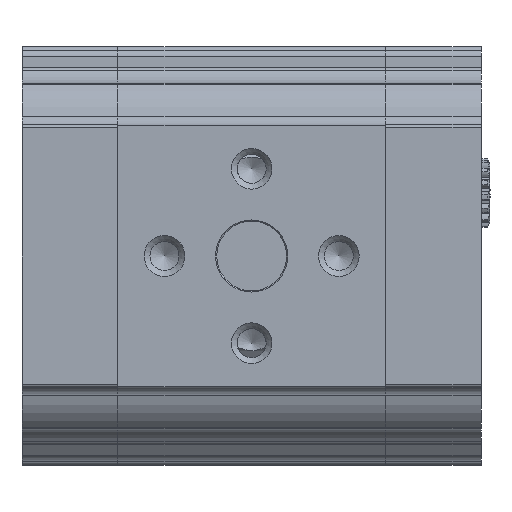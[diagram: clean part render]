
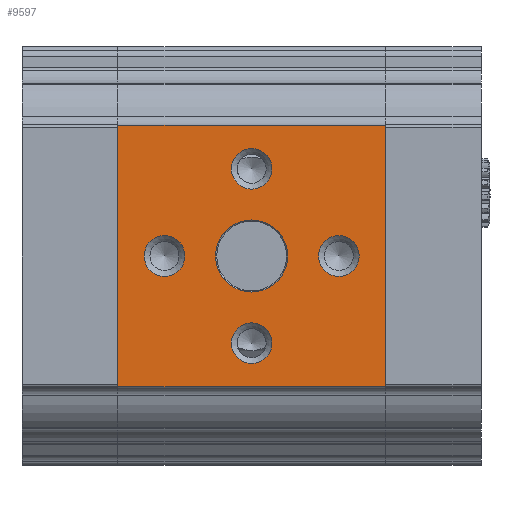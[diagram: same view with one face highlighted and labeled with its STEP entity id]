
A CAD part, left-side view. The second image highlights one B-rep face of the part: STEP entity #9597.
In plain terms, the highlighted planar face has unit normal (-1, 0, 0).
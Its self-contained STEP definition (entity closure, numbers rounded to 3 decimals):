
#382=LINE('',#14472,#678);
#392=LINE('',#14573,#688);
#411=LINE('',#14621,#707);
#412=LINE('',#14623,#708);
#678=VECTOR('',#11873,1000.);
#688=VECTOR('',#11965,1000.);
#707=VECTOR('',#12020,1000.);
#708=VECTOR('',#12023,1000.);
#2340=ORIENTED_EDGE('',*,*,#3940,.T.);
#2341=ORIENTED_EDGE('',*,*,#3941,.T.);
#2342=ORIENTED_EDGE('',*,*,#3942,.T.);
#2343=ORIENTED_EDGE('',*,*,#3943,.T.);
#2344=ORIENTED_EDGE('',*,*,#3944,.T.);
#2345=ORIENTED_EDGE('',*,*,#3920,.T.);
#2346=ORIENTED_EDGE('',*,*,#3892,.T.);
#2347=ORIENTED_EDGE('',*,*,#3921,.T.);
#2348=ORIENTED_EDGE('',*,*,#3842,.F.);
#3842=EDGE_CURVE('',#4773,#4774,#382,.T.);
#3892=EDGE_CURVE('',#4824,#4823,#392,.T.);
#3920=EDGE_CURVE('',#4773,#4824,#411,.T.);
#3921=EDGE_CURVE('',#4823,#4774,#412,.F.);
#3940=EDGE_CURVE('',#4843,#4843,#5500,.F.);
#3941=EDGE_CURVE('',#4844,#4844,#5501,.F.);
#3942=EDGE_CURVE('',#4845,#4845,#5502,.F.);
#3943=EDGE_CURVE('',#4846,#4846,#5503,.F.);
#3944=EDGE_CURVE('',#4847,#4847,#5504,.F.);
#4773=VERTEX_POINT('',#14471);
#4774=VERTEX_POINT('',#14473);
#4823=VERTEX_POINT('',#14572);
#4824=VERTEX_POINT('',#14574);
#4843=VERTEX_POINT('',#14746);
#4844=VERTEX_POINT('',#14748);
#4845=VERTEX_POINT('',#14750);
#4846=VERTEX_POINT('',#14752);
#4847=VERTEX_POINT('',#14754);
#5500=CIRCLE('',#10365,3.5);
#5501=CIRCLE('',#10366,3.5);
#5502=CIRCLE('',#10367,3.5);
#5503=CIRCLE('',#10368,3.5);
#5504=CIRCLE('',#10369,6.2);
#6052=EDGE_LOOP('',(#2340));
#6053=EDGE_LOOP('',(#2341));
#6054=EDGE_LOOP('',(#2342));
#6055=EDGE_LOOP('',(#2343));
#6056=EDGE_LOOP('',(#2344));
#6057=EDGE_LOOP('',(#2345,#2346,#2347,#2348));
#6645=FACE_BOUND('',#6052,.T.);
#6646=FACE_BOUND('',#6053,.T.);
#6647=FACE_BOUND('',#6054,.T.);
#6648=FACE_BOUND('',#6055,.T.);
#6649=FACE_BOUND('',#6056,.T.);
#6650=FACE_BOUND('',#6057,.T.);
#6985=PLANE('',#10364);
#9597=ADVANCED_FACE('',(#6645,#6646,#6647,#6648,#6649,#6650),#6985,.T.);
#10364=AXIS2_PLACEMENT_3D('',#14744,#12066,#12067);
#10365=AXIS2_PLACEMENT_3D('',#14745,#12068,#12069);
#10366=AXIS2_PLACEMENT_3D('',#14747,#12070,#12071);
#10367=AXIS2_PLACEMENT_3D('',#14749,#12072,#12073);
#10368=AXIS2_PLACEMENT_3D('',#14751,#12074,#12075);
#10369=AXIS2_PLACEMENT_3D('',#14753,#12076,#12077);
#11873=DIRECTION('',(0.,0.,1.));
#11965=DIRECTION('',(0.,0.,1.));
#12020=DIRECTION('',(0.,-1.,0.));
#12023=DIRECTION('',(0.,-1.,0.));
#12066=DIRECTION('',(-1.,0.,0.));
#12067=DIRECTION('',(0.,0.,1.));
#12068=DIRECTION('',(-1.,0.,0.));
#12069=DIRECTION('',(0.,0.,1.));
#12070=DIRECTION('',(-1.,0.,0.));
#12071=DIRECTION('',(0.,0.,1.));
#12072=DIRECTION('',(-1.,0.,0.));
#12073=DIRECTION('',(0.,0.,1.));
#12074=DIRECTION('',(-1.,0.,0.));
#12075=DIRECTION('',(0.,0.,1.));
#12076=DIRECTION('',(-1.,0.,0.));
#12077=DIRECTION('',(0.,0.,1.));
#14471=CARTESIAN_POINT('',(-33.,46.,-22.5));
#14472=CARTESIAN_POINT('',(-33.,46.,-21.711));
#14473=CARTESIAN_POINT('',(-33.,46.,22.5));
#14572=CARTESIAN_POINT('',(-33.,0.,22.5));
#14573=CARTESIAN_POINT('',(-33.,0.,-21.711));
#14574=CARTESIAN_POINT('',(-33.,0.,-22.5));
#14621=CARTESIAN_POINT('',(-33.,46.,-22.5));
#14623=CARTESIAN_POINT('',(-33.,46.,22.5));
#14744=CARTESIAN_POINT('',(-33.,126.409,48.138));
#14745=CARTESIAN_POINT('',(-33.,23.,-15.));
#14746=CARTESIAN_POINT('',(-33.,23.,-11.5));
#14747=CARTESIAN_POINT('',(-33.,8.,0.));
#14748=CARTESIAN_POINT('',(-33.,8.,3.5));
#14749=CARTESIAN_POINT('',(-33.,23.,15.));
#14750=CARTESIAN_POINT('',(-33.,23.,18.5));
#14751=CARTESIAN_POINT('',(-33.,38.,0.));
#14752=CARTESIAN_POINT('',(-33.,38.,3.5));
#14753=CARTESIAN_POINT('',(-33.,23.,0.));
#14754=CARTESIAN_POINT('',(-33.,23.,6.2));
